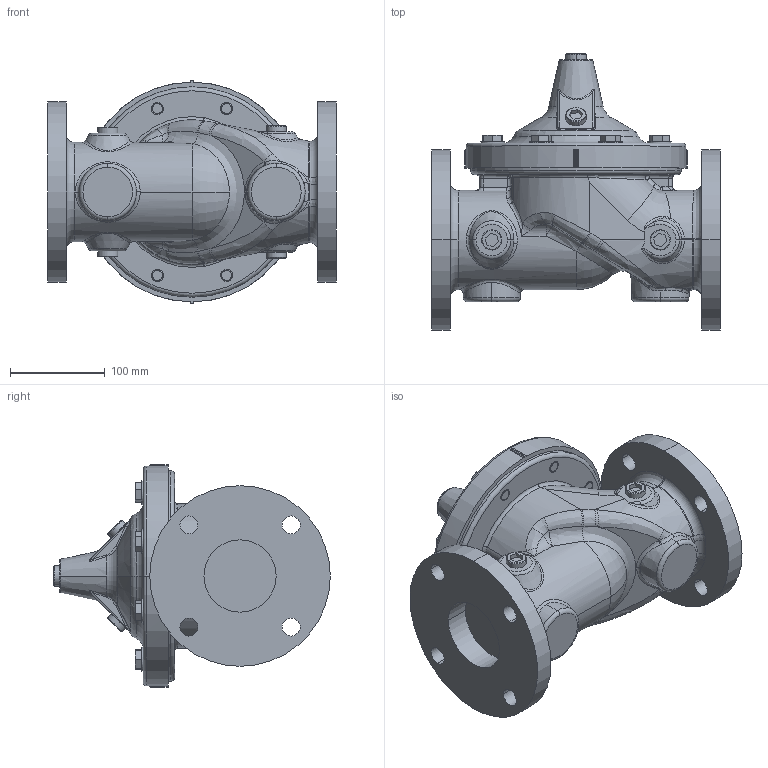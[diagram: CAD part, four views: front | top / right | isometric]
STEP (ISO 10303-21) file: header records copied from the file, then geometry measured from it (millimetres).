
FILE_DESCRIPTION (( 'STEP AP203' ), '1' );
FILE_NAME ('3in Hytrol 150AG.STEP', '2018-06-15T21:35:45', ( '' ), ( '' ), 'SwSTEP 2.0', 'SolidWorks 2017', '' );
FILE_SCHEMA (( 'CONFIG_CONTROL_DESIGN' ));
Length unit declared in the file: inch
Products named in the file (6): 3in Body HyGl150A STD_Default 150 FLAT FACE; 3in Cover (no core)_Default (NO CORE); Bolt .500-13 UNC  (67607)_1.38   67607-07; .500 NPT PIPE PLUG (67847)_SCO HD .50-14 NPT; WASHER, PLAIN FLAT FOR .500 SCREW (67750)_.500N   67750-04C; 3in Hytrol 150AG
Assembly tree (25 placements, depth 2):
  3in Hytrol 150AG
    3in Body HyGl150A STD_Default 150 FLAT FACE
    3in Cover (no core)_Default (NO CORE)
    Bolt .500-13 UNC  (67607)_1.38   67607-07  x8
    .500 NPT PIPE PLUG (67847)_SCO HD .50-14 NPT  x7
    WASHER, PLAIN FLAT FOR .500 SCREW (67750)_.500N   67750-04C  x8
Bounding box: 304.8 x 291.85 x 234.7 mm (x, y, z)
Volume: 5781454.5 mm3; surface area: 477344.8 mm2
Topology: 25 solids, 25 shells, 843 faces, 1911 edges, 1128 vertices
Faces by surface type: cylinder 219, plane 219, cone 147, bspline 132, torus 114, sphere 12
Entity records: 25038 total; most frequent: CARTESIAN_POINT 12305, ORIENTED_EDGE 2478, DIRECTION 2378, EDGE_CURVE 1239, AXIS2_PLACEMENT_3D 1018, VERTEX_POINT 740, EDGE_LOOP 609, CIRCLE 588
